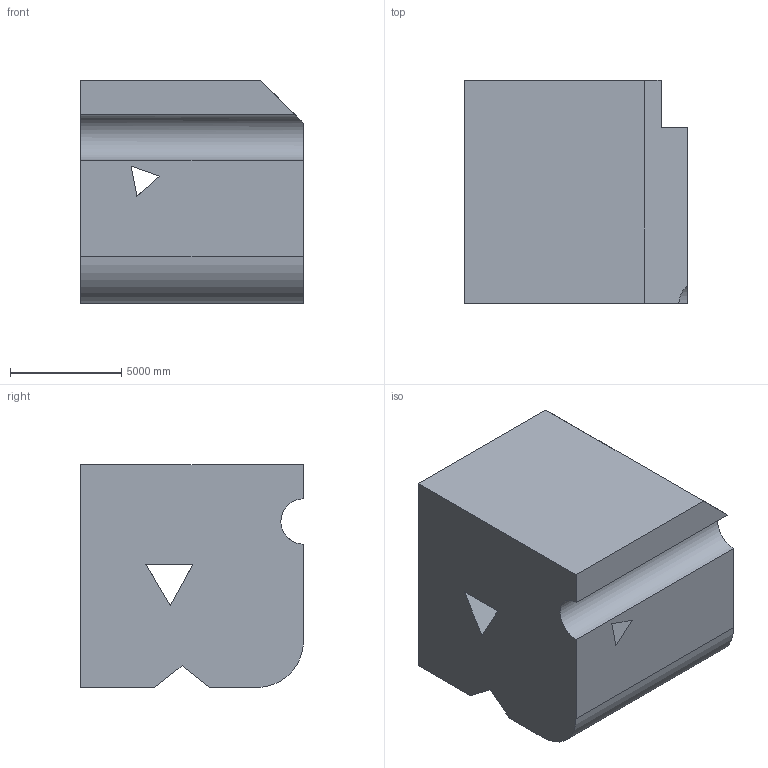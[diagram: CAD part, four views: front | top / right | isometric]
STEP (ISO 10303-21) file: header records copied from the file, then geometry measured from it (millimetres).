
FILE_DESCRIPTION (( 'STEP AP203' ), '1' );
FILE_NAME ('742.STEP', '2022-07-29T12:53:20', ( 'user' ), ( '' ), 'SwSTEP 2.0', 'SolidWorks 2021', '' );
FILE_SCHEMA (( 'CONFIG_CONTROL_DESIGN' ));
Length unit declared in the file: centimetre
Products named in the file (1): 742
Bounding box: 10000 x 10000 x 10000 mm (x, y, z)
Volume: 883249766141 mm3; surface area: 711084828.7 mm2
Topology: 1 solids, 1 shells, 27 faces, 78 edges, 52 vertices
Faces by surface type: plane 25, cylinder 2
Entity records: 965 total; most frequent: CARTESIAN_POINT 161, ORIENTED_EDGE 156, DIRECTION 137, EDGE_CURVE 78, LINE 73, VECTOR 73, VERTEX_POINT 52, AXIS2_PLACEMENT_3D 32
